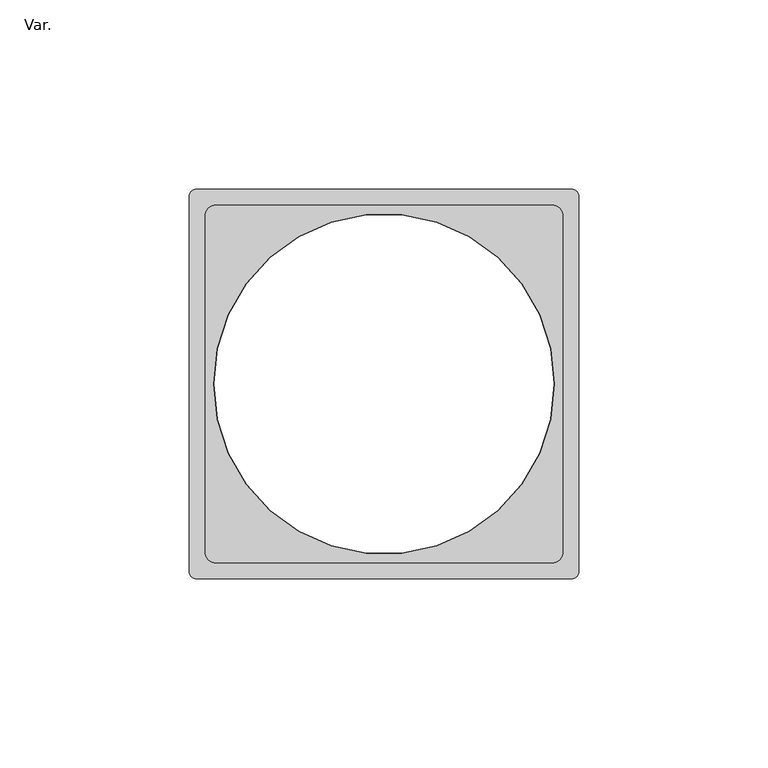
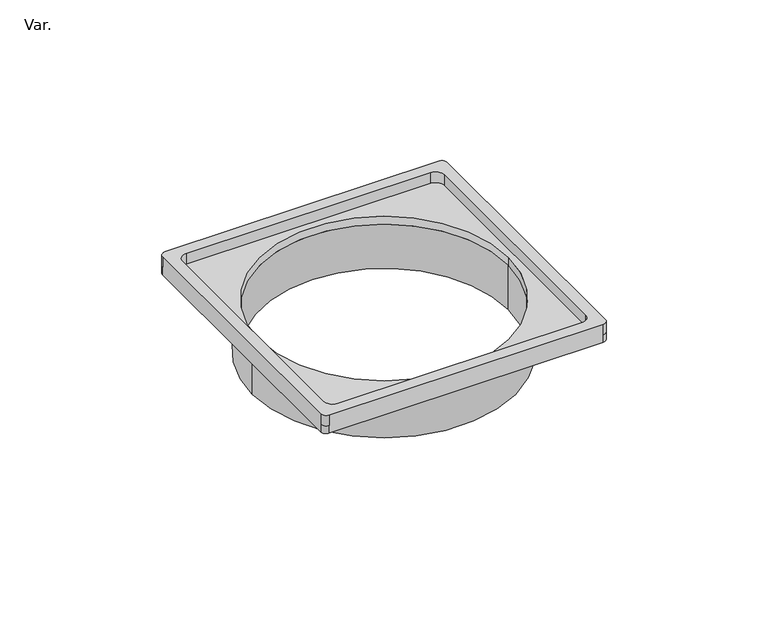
"""IFC4 building model written with IfcOpenShell, lengths in millimetres: pipe fitting geometry, AmancoWavin_ConexõesdeTubos_EsgotoZNãoUsarPortaGrelhaSilentium : Var.."""

from ifc_helpers import new_model, si_unit, frame, origin, place, context, project, spatial, polyline, circle_curve, source, transform, mapped, element, save
from ifc_brep_helpers import plane_surface, cylinder_surface, revolved_surface, advanced_brep


def var_c63adebf(model_context):
    return source(origin(), model_context, "Body", "AdvancedBrep", [
        advanced_brep(
        [(-20.9026442, 51.5, 7.0), (-119.9026442, 51.5, 7.0), (-121.9026442, 49.5, 7.0), (-121.9026442, -49.5, 7.0), (-119.9026442, -51.5, 7.0), (-20.9026442, -51.5, 7.0), (-18.9026442, -49.5, 7.0), (-18.9026442, 49.5, 7.0), (-26.1026442, 47.3, 7.0), (-23.1026442, 44.3, 7.0), (-23.1026442, -44.3, 7.0), (-26.1026442, -47.3, 7.0), (-114.7026442, -47.3, 7.0), (-117.7026442, -44.3, 7.0), (-117.7026442, 44.3, 7.0), (-114.7026442, 47.3, 7.0), (-20.9026442, 51.5, 3.0), (-20.9026442, 51.5, 0.0), (-119.9026442, 51.5, 0.0), (-119.9026442, 51.5, 3.0), (-121.9026442, 49.5, 3.0), (-121.9026442, 49.5, 0.0), (-121.9026442, -49.5, 0.0), (-121.9026442, -49.5, 3.0), (-119.9026442, -51.5, 3.0), (-119.9026442, -51.5, 0.0), (-20.9026442, -51.5, 0.0), (-20.9026442, -51.5, 3.0), (-18.9026442, -49.5, 3.0), (-18.9026442, -49.5, 0.0), (-18.9026442, 49.5, 0.0), (-18.9026442, 49.5, 3.0), (-26.1026442, 47.3, 3.0), (-23.1026442, 44.3, 3.0), (-23.1026442, -44.3, 3.0), (-26.1026442, -47.3, 3.0), (-114.7026442, -47.3, 3.0), (-117.7026442, -44.3, 3.0), (-117.7026442, 44.3, 3.0), (-114.7026442, 47.3, 3.0), (-115.4026442, 0.0, 3.0), (-25.4026442, 0.0, 3.0), (-115.4026442, 0.0, 0.0), (-25.4026442, 0.0, 0.0)],
        [
            (0, 1),
            (1, 2, circle_curve(frame((-119.9026442, 49.5, 7.0), z_axis=(0.0, 0.0, 1.0), x_axis=(1.0, 0.0, 0.0)), 2.0)),
            (2, 3),
            (3, 4, circle_curve(frame((-119.9026442, -49.5, 7.0), z_axis=(0.0, 0.0, 1.0), x_axis=(1.0, 0.0, 0.0)), 2.0)),
            (4, 5),
            (5, 6, circle_curve(frame((-20.9026442, -49.5, 7.0), z_axis=(0.0, 0.0, 1.0), x_axis=(1.0, 0.0, 0.0)), 2.0)),
            (6, 7),
            (7, 0, circle_curve(frame((-20.9026442, 49.5, 7.0), z_axis=(0.0, 0.0, 1.0), x_axis=(1.0, 0.0, 0.0)), 2.0)),
            (8, 9, circle_curve(frame((-26.1026442, 44.3, 7.0), z_axis=(0.0, 0.0, -1.0), x_axis=(1.0, 0.0, 0.0)), 3.0)),
            (9, 10),
            (10, 11, circle_curve(frame((-26.1026442, -44.3, 7.0), z_axis=(0.0, 0.0, -1.0), x_axis=(1.0, 0.0, 0.0)), 3.0)),
            (11, 12),
            (12, 13, circle_curve(frame((-114.7026442, -44.3, 7.0), z_axis=(0.0, 0.0, -1.0), x_axis=(1.0, 0.0, 0.0)), 3.0)),
            (13, 14),
            (14, 15, circle_curve(frame((-114.7026442, 44.3, 7.0), z_axis=(0.0, 0.0, -1.0), x_axis=(1.0, 0.0, 0.0)), 3.0)),
            (15, 8),
            (0, 16),
            (16, 17),
            (17, 18),
            (18, 19),
            (19, 1),
            (19, 20, circle_curve(frame((-119.9026442, 49.5, 3.0), z_axis=(0.0, 0.0, 1.0), x_axis=(1.0, 0.0, 0.0)), 2.0)),
            (20, 2),
            (20, 21),
            (21, 22),
            (22, 23),
            (23, 3),
            (23, 24, circle_curve(frame((-119.9026442, -49.5, 3.0), z_axis=(0.0, 0.0, 1.0), x_axis=(1.0, 0.0, 0.0)), 2.0)),
            (24, 4),
            (24, 25),
            (25, 26),
            (26, 27),
            (27, 5),
            (27, 28, circle_curve(frame((-20.9026442, -49.5, 3.0), z_axis=(0.0, 0.0, 1.0), x_axis=(1.0, 0.0, 0.0)), 2.0)),
            (28, 6),
            (28, 29),
            (29, 30),
            (30, 31),
            (31, 7),
            (31, 16, circle_curve(frame((-20.9026442, 49.5, 3.0), z_axis=(0.0, 0.0, 1.0), x_axis=(1.0, 0.0, 0.0)), 2.0)),
            (8, 32),
            (32, 33, circle_curve(frame((-26.1026442, 44.3, 3.0), z_axis=(0.0, 0.0, -1.0), x_axis=(1.0, 0.0, 0.0)), 3.0)),
            (33, 9),
            (33, 34),
            (34, 10),
            (34, 35, circle_curve(frame((-26.1026442, -44.3, 3.0), z_axis=(0.0, 0.0, -1.0), x_axis=(1.0, 0.0, 0.0)), 3.0)),
            (35, 11),
            (35, 36),
            (36, 12),
            (36, 37, circle_curve(frame((-114.7026442, -44.3, 3.0), z_axis=(0.0, 0.0, -1.0), x_axis=(1.0, 0.0, 0.0)), 3.0)),
            (37, 13),
            (37, 38),
            (38, 14),
            (38, 39, circle_curve(frame((-114.7026442, 44.3, 3.0), z_axis=(0.0, 0.0, -1.0), x_axis=(1.0, 0.0, 0.0)), 3.0)),
            (39, 15),
            (39, 32),
            (40, 41, circle_curve(frame((-70.4026442, 0.0, 3.0), z_axis=(0.0, 0.0, -1.0), x_axis=(1.0, 0.0, 0.0)), 45.0)),
            (41, 40, circle_curve(frame((-70.4026442, 0.0, 3.0), z_axis=(0.0, 0.0, -1.0), x_axis=(1.0, 0.0, 0.0)), 45.0)),
            (17, 30, circle_curve(frame((-20.9026442, 49.5, 0.0), z_axis=(0.0, 0.0, -1.0), x_axis=(1.0, 0.0, 0.0)), 2.0)),
            (29, 26, circle_curve(frame((-20.9026442, -49.5, 0.0), z_axis=(0.0, 0.0, -1.0), x_axis=(1.0, 0.0, 0.0)), 2.0)),
            (25, 22, circle_curve(frame((-119.9026442, -49.5, 0.0), z_axis=(0.0, 0.0, -1.0), x_axis=(1.0, 0.0, 0.0)), 2.0)),
            (21, 18, circle_curve(frame((-119.9026442, 49.5, 0.0), z_axis=(0.0, 0.0, -1.0), x_axis=(1.0, 0.0, 0.0)), 2.0)),
            (42, 43, circle_curve(frame((-70.4026442, 0.0, 0.0), z_axis=(0.0, 0.0, 1.0), x_axis=(1.0, 0.0, 0.0)), 45.0)),
            (43, 42, circle_curve(frame((-70.4026442, 0.0, 0.0), z_axis=(0.0, 0.0, 1.0), x_axis=(1.0, 0.0, 0.0)), 45.0)),
            (40, 42),
            (43, 41),
        ],
        [
            plane_surface(frame((-119.9026442, 51.5, 7.0), z_axis=(0.0, 0.0, 1.0), x_axis=(-1.0, 0.0, 0.0))),
            plane_surface(frame((-20.9026442, 51.5, 7.0), z_axis=(0.0, 1.0, 0.0), x_axis=(0.0, 0.0, -1.0))),
            cylinder_surface(frame((-119.9026442, 49.5, 3.0), z_axis=(0.0, 0.0, 1.0), x_axis=(1.0, 0.0, 0.0)), 2.0),
            plane_surface(frame((-121.9026442, 49.5, 7.0), z_axis=(-1.0, 0.0, 0.0), x_axis=(0.0, 0.0, -1.0))),
            cylinder_surface(frame((-119.9026442, -49.5, 3.0), z_axis=(0.0, 0.0, 1.0), x_axis=(1.0, 0.0, 0.0)), 2.0),
            plane_surface(frame((-119.9026442, -51.5, 7.0), z_axis=(0.0, -1.0, 0.0), x_axis=(0.0, 0.0, -1.0))),
            cylinder_surface(frame((-20.9026442, -49.5, 3.0), z_axis=(0.0, 0.0, 1.0), x_axis=(1.0, 0.0, 0.0)), 2.0),
            plane_surface(frame((-18.9026442, -49.5, 7.0), z_axis=(1.0, 0.0, 0.0), x_axis=(0.0, 0.0, -1.0))),
            cylinder_surface(frame((-20.9026442, 49.5, 3.0), z_axis=(0.0, 0.0, 1.0), x_axis=(1.0, 0.0, 0.0)), 2.0),
            revolved_surface(polyline([(-23.1026442, 44.3, 3.0), (-23.1026442, 44.3, 7.0)]), (-26.1026442, 44.3, 0.0), (0.0, 0.0, -1.0)),
            plane_surface(frame((-23.1026442, 44.3, 7.0), z_axis=(-1.0, 0.0, 0.0), x_axis=(0.0, 0.0, -1.0))),
            revolved_surface(polyline([(-23.1026442, -44.3, 3.0), (-23.1026442, -44.3, 7.0)]), (-26.1026442, -44.3, 0.0), (0.0, 0.0, -1.0)),
            plane_surface(frame((-26.1026442, -47.3, 7.0), z_axis=(0.0, 1.0, 0.0), x_axis=(0.0, 0.0, -1.0))),
            revolved_surface(polyline([(-111.7026442, -44.3, 3.0), (-111.7026442, -44.3, 7.0)]), (-114.7026442, -44.3, 0.0), (0.0, 0.0, -1.0)),
            plane_surface(frame((-117.7026442, -44.3, 7.0), z_axis=(1.0, 0.0, 0.0), x_axis=(0.0, 0.0, -1.0))),
            revolved_surface(polyline([(-111.7026442, 44.3, 3.0), (-111.7026442, 44.3, 7.0)]), (-114.7026442, 44.3, 0.0), (0.0, 0.0, -1.0)),
            plane_surface(frame((-114.7026442, 47.3, 7.0), z_axis=(0.0, -1.0, 0.0), x_axis=(0.0, 0.0, -1.0))),
            plane_surface(frame((-119.9026442, 51.5, 3.0), z_axis=(0.0, 0.0, 1.0), x_axis=(-1.0, 0.0, 0.0))),
            plane_surface(frame((-119.9026442, 51.5, 0.0), z_axis=(0.0, 0.0, -1.0), x_axis=(1.0, 0.0, 0.0))),
            cylinder_surface(frame((-119.9026442, 49.5, 0.0), z_axis=(0.0, 0.0, 1.0), x_axis=(1.0, 0.0, 0.0)), 2.0),
            cylinder_surface(frame((-119.9026442, -49.5, 0.0), z_axis=(0.0, 0.0, 1.0), x_axis=(1.0, 0.0, 0.0)), 2.0),
            cylinder_surface(frame((-20.9026442, -49.5, 0.0), z_axis=(0.0, 0.0, 1.0), x_axis=(1.0, 0.0, 0.0)), 2.0),
            cylinder_surface(frame((-20.9026442, 49.5, 0.0), z_axis=(0.0, 0.0, 1.0), x_axis=(1.0, 0.0, 0.0)), 2.0),
            revolved_surface(polyline([(-25.402644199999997, 0.0, 0.0), (-25.402644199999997, 0.0, 3.0)]), (-70.4026442, 0.0, 0.0), (0.0, 0.0, -1.0)),
        ],
        [
            (0, [[1, 2, 3, 4, 5, 6, 7, 8], [9, 10, 11, 12, 13, 14, 15, 16]]),
            (1, [[-1, 17, 18, 19, 20, 21]]),
            (2, [[-2, -21, 22, 23]]),
            (3, [[-3, -23, 24, 25, 26, 27]]),
            (4, [[-4, -27, 28, 29]]),
            (5, [[-5, -29, 30, 31, 32, 33]]),
            (6, [[-6, -33, 34, 35]]),
            (7, [[-7, -35, 36, 37, 38, 39]]),
            (8, [[-8, -39, 40, -17]]),
            (9, [[-9, 41, 42, 43]]),
            (10, [[-10, -43, 44, 45]]),
            (11, [[-11, -45, 46, 47]]),
            (12, [[-12, -47, 48, 49]]),
            (13, [[-13, -49, 50, 51]]),
            (14, [[-14, -51, 52, 53]]),
            (15, [[-15, -53, 54, 55]]),
            (16, [[-16, -55, 56, -41]]),
            (17, [[-42, -56, -54, -52, -50, -48, -46, -44], [57, 58]]),
            (18, [[59, -37, 60, -31, 61, -25, 62, -19], [63, 64]]),
            (19, [[-62, -24, -22, -20]]),
            (20, [[-61, -30, -28, -26]]),
            (21, [[-60, -36, -34, -32]]),
            (22, [[-59, -18, -40, -38]]),
            (23, [[-57, 65, -64, 66]]),
            (23, [[-58, -66, -63, -65]]),
        ],
    ),
        advanced_brep(
        [(-25.4026442, 0.0, 0.0), (-115.4026442, 0.0, 0.0), (-118.0026442, 0.0, 0.0), (-22.8026442, 0.0, 0.0), (-25.4026442, 0.0, -17.0), (-115.4026442, 0.0, -17.0), (-22.8026442, 0.0, -17.0), (-118.0026442, 0.0, -17.0)],
        [
            (0, 1, circle_curve(frame((-70.4026442, 0.0, 0.0), z_axis=(0.0, 0.0, -1.0), x_axis=(-1.0, 0.0, 0.0)), 45.0)),
            (1, 2),
            (2, 3, circle_curve(frame((-70.4026442, 0.0, 0.0), z_axis=(0.0, 0.0, 1.0), x_axis=(-1.0, 0.0, 0.0)), 47.6)),
            (3, 0),
            (1, 0, circle_curve(frame((-70.4026442, 0.0, 0.0), z_axis=(0.0, 0.0, -1.0), x_axis=(-1.0, 0.0, 0.0)), 45.0)),
            (3, 2, circle_curve(frame((-70.4026442, 0.0, 0.0), z_axis=(0.0, 0.0, 1.0), x_axis=(-1.0, 0.0, 0.0)), 47.6)),
            (4, 5, circle_curve(frame((-70.4026442, 0.0, -17.0), z_axis=(0.0, 0.0, -1.0), x_axis=(-1.0, 0.0, 0.0)), 45.0)),
            (5, 1),
            (0, 4),
            (5, 4, circle_curve(frame((-70.4026442, 0.0, -17.0), z_axis=(0.0, 0.0, -1.0), x_axis=(-1.0, 0.0, 0.0)), 45.0)),
            (6, 7, circle_curve(frame((-70.4026442, 0.0, -17.0), z_axis=(0.0, 0.0, -1.0), x_axis=(-1.0, 0.0, 0.0)), 47.6)),
            (7, 5),
            (4, 6),
            (7, 6, circle_curve(frame((-70.4026442, 0.0, -17.0), z_axis=(0.0, 0.0, -1.0), x_axis=(-1.0, 0.0, 0.0)), 47.6)),
            (2, 7),
            (6, 3),
        ],
        [
            plane_surface(frame((-70.4026442, 0.0, 0.0), z_axis=(0.0, 0.0, 1.0), x_axis=(-1.0, 0.0, 0.0))),
            revolved_surface(polyline([(-115.4026442, 0.0, 0.0), (-115.4026442, 0.0, -17.0)]), (-70.4026442, 0.0, -2214.3150031), (0.0, 0.0, 1.0)),
            plane_surface(frame((-70.4026442, 0.0, -17.0), z_axis=(0.0, 0.0, -1.0), x_axis=(-1.0, 0.0, 0.0))),
            cylinder_surface(frame((-70.4026442, 0.0, -2214.3150031), z_axis=(0.0, 0.0, 1.0), x_axis=(-1.0, 0.0, 0.0)), 47.6),
        ],
        [
            (0, [[1, 2, 3, 4]]),
            (0, [[5, -4, 6, -2]]),
            (1, [[7, 8, -1, 9]]),
            (1, [[10, -9, -5, -8]]),
            (2, [[11, 12, -7, 13]]),
            (2, [[14, -13, -10, -12]]),
            (3, [[-3, 15, -11, 16]]),
            (3, [[-6, -16, -14, -15]]),
        ],
    ),
    ])


if __name__ == "__main__":
    model = new_model("IFC4")
    model_context = context("Model", 3, world=origin())
    ifc_project = project(units=[si_unit("LENGTHUNIT", "METRE", prefix="MILLI")], contexts=[model_context])
    site = spatial("IfcSite", under=ifc_project)
    building = spatial("IfcBuilding", under=site)
    placement = place(None, origin())
    var_shape = var_c63adebf(model_context)
    element("IfcPipeFitting", 1, ObjectType="AmancoWavin_ConexõesdeTubos_EsgotoZNãoUsarPortaGrelhaSilentium : Var.", at=placement, inside=building, context=model_context, shape_type="MappedRepresentation", body=[
        mapped(var_shape, transform((0.0, 0.0, 0.0), x_axis=(1.0, 0.0, 0.0), y_axis=(0.0, 1.0, 0.0), z_axis=(0.0, 0.0, 1.0))),
    ])
    save(model, "model.ifc")
